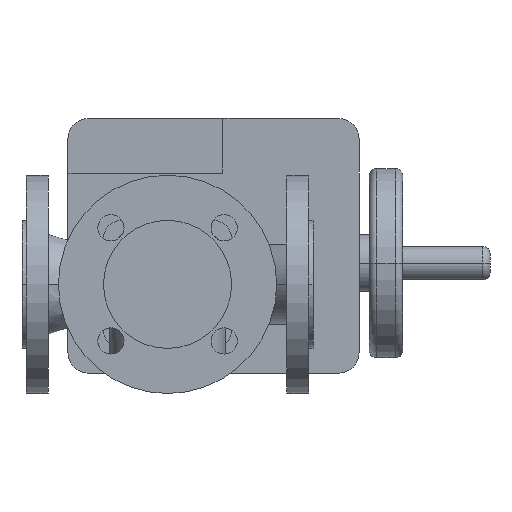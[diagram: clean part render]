
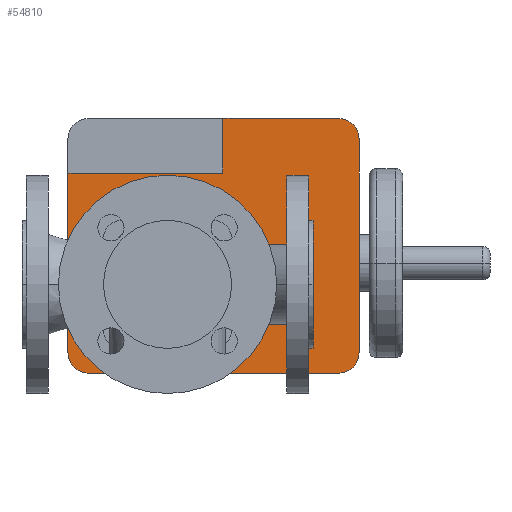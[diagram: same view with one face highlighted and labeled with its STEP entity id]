
A CAD part, front view. The second image highlights one B-rep face of the part: STEP entity #54810.
In plain terms, the highlighted planar face has unit normal (0, -1, 0).
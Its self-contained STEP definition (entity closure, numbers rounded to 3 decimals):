
#46860=CARTESIAN_POINT('',(31.6,415.5,-47.));
#46870=DIRECTION('',(0.,0.,1.));
#46880=VECTOR('',#46870,1.);
#46890=LINE('',#46860,#46880);
#46900=CARTESIAN_POINT('',(31.6,415.5,-47.));
#46910=VERTEX_POINT('',#46900);
#46920=CARTESIAN_POINT('',(31.6,415.5,76.5));
#46930=VERTEX_POINT('',#46920);
#46940=EDGE_CURVE('',#46910,#46930,#46890,.T.);
#50410=CARTESIAN_POINT('',(45.6,415.5,-47.));
#50420=DIRECTION('',(0.,1.,0.));
#50430=DIRECTION('',(0.,0.,-1.));
#50440=AXIS2_PLACEMENT_3D('',#50410,#50420,#50430);
#50450=CIRCLE('',#50440,14.);
#50460=CARTESIAN_POINT('',(45.6,415.5,-61.));
#50470=VERTEX_POINT('',#50460);
#50480=EDGE_CURVE('',#50470,#46910,#50450,.T.);
#50770=CARTESIAN_POINT('',(217.6,415.5,-61.));
#50780=DIRECTION('',(-1.,0.,0.));
#50790=VECTOR('',#50780,1.);
#50800=LINE('',#50770,#50790);
#50810=CARTESIAN_POINT('',(217.6,415.5,-61.));
#50820=VERTEX_POINT('',#50810);
#50830=EDGE_CURVE('',#50820,#50470,#50800,.T.);
#51220=CARTESIAN_POINT('',(47.058,415.5,49.002));
#51230=VERTEX_POINT('',#51220);
#51260=CARTESIAN_POINT('',(55.216,415.5,45.2));
#51270=DIRECTION('',(0.,1.,0.));
#51280=DIRECTION('',(-0.906,0.,0.422));
#51290=AXIS2_PLACEMENT_3D('',#51260,#51270,#51280);
#51300=CIRCLE('',#51290,9.);
#51310=CARTESIAN_POINT('',(55.216,415.5,54.2));
#51320=VERTEX_POINT('',#51310);
#51330=EDGE_CURVE('',#51230,#51320,#51300,.T.);
#51590=CARTESIAN_POINT('',(77.608,415.5,54.2));
#51600=DIRECTION('',(1.,0.,0.));
#51610=VECTOR('',#51600,1.);
#51620=LINE('',#51590,#51610);
#51630=CARTESIAN_POINT('',(144.784,415.5,54.2));
#51640=VERTEX_POINT('',#51630);
#51650=EDGE_CURVE('',#51320,#51640,#51620,.T.);
#51900=CARTESIAN_POINT('',(144.784,415.5,45.2));
#51910=DIRECTION('',(0.,1.,0.));
#51920=DIRECTION('',(0.,0.,1.));
#51930=AXIS2_PLACEMENT_3D('',#51900,#51910,#51920);
#51940=CIRCLE('',#51930,9.);
#51950=CARTESIAN_POINT('',(152.942,415.5,49.002));
#51960=VERTEX_POINT('',#51950);
#51970=EDGE_CURVE('',#51640,#51960,#51940,.T.);
#52230=CARTESIAN_POINT('',(47.8,415.5,0.)
);
#52240=DIRECTION('',(0.,1.,0.));
#52250=DIRECTION('',(0.906,0.,0.422));
#52260=AXIS2_PLACEMENT_3D('',#52230,#52240,#52250);
#52270=CIRCLE('',#52260,116.);
#52280=CARTESIAN_POINT('',(152.942,415.5,-49.002));
#52290=VERTEX_POINT('',#52280);
#52300=EDGE_CURVE('',#51960,#52290,#52270,.T.);
#52560=CARTESIAN_POINT('',(144.784,415.5,-45.2));
#52570=DIRECTION('',(0.,1.,0.));
#52580=DIRECTION('',(0.906,0.,-0.422));
#52590=AXIS2_PLACEMENT_3D('',#52560,#52570,#52580);
#52600=CIRCLE('',#52590,9.);
#52610=CARTESIAN_POINT('',(144.784,415.5,-54.2));
#52620=VERTEX_POINT('',#52610);
#52630=EDGE_CURVE('',#52290,#52620,#52600,.T.);
#52890=CARTESIAN_POINT('',(122.392,415.5,-54.2));
#52900=DIRECTION('',(-1.,0.,0.));
#52910=VECTOR('',#52900,1.);
#52920=LINE('',#52890,#52910);
#52930=CARTESIAN_POINT('',(55.216,415.5,-54.2));
#52940=VERTEX_POINT('',#52930);
#52950=EDGE_CURVE('',#52620,#52940,#52920,.T.);
#53200=CARTESIAN_POINT('',(55.216,415.5,-45.2));
#53210=DIRECTION('',(0.,1.,0.));
#53220=DIRECTION('',(0.,0.,-1.));
#53230=AXIS2_PLACEMENT_3D('',#53200,#53210,#53220);
#53240=CIRCLE('',#53230,9.);
#53250=CARTESIAN_POINT('',(47.058,415.5,-49.002));
#53260=VERTEX_POINT('',#53250);
#53270=EDGE_CURVE('',#52940,#53260,#53240,.T.);
#53530=CARTESIAN_POINT('',(152.2,415.5,0.));
#53540=DIRECTION('',(0.,1.,0.));
#53550=DIRECTION('',(-0.906,0.,-0.422));
#53560=AXIS2_PLACEMENT_3D('',#53530,#53540,#53550);
#53570=CIRCLE('',#53560,116.);
#53580=EDGE_CURVE('',#53260,#51230,#53570,.T.);
#54130=CARTESIAN_POINT('',(100.,415.5,0.));
#54140=DIRECTION('',(0.,1.,0.));
#54150=DIRECTION('',(0.,0.,1.));
#54160=AXIS2_PLACEMENT_3D('',#54130,#54140,#54150);
#54170=PLANE('',#54160);
#54180=ORIENTED_EDGE('',*,*,#53580,.T.);
#54190=ORIENTED_EDGE('',*,*,#53270,.T.);
#54200=ORIENTED_EDGE('',*,*,#52950,.T.);
#54210=ORIENTED_EDGE('',*,*,#52630,.T.);
#54220=ORIENTED_EDGE('',*,*,#52300,.T.);
#54230=ORIENTED_EDGE('',*,*,#51970,.T.);
#54240=ORIENTED_EDGE('',*,*,#51650,.T.);
#54250=ORIENTED_EDGE('',*,*,#51330,.T.);
#54260=EDGE_LOOP('',(#54250,#54240,#54230,#54220,#54210,#54200,#54190,
#54180));
#54270=FACE_BOUND('',#54260,.T.);
#54280=CARTESIAN_POINT('',(138.1,415.5,38.25));
#54290=DIRECTION('',(0.,0.,-1.));
#54300=VECTOR('',#54290,1.);
#54310=LINE('',#54280,#54300);
#54320=CARTESIAN_POINT('',(138.1,415.5,114.));
#54330=VERTEX_POINT('',#54320);
#54340=CARTESIAN_POINT('',(138.1,415.5,76.5));
#54350=VERTEX_POINT('',#54340);
#54360=EDGE_CURVE('',#54330,#54350,#54310,.T.);
#54370=ORIENTED_EDGE('',*,*,#54360,.T.);
#54380=CARTESIAN_POINT('',(45.6,415.5,114.));
#54390=DIRECTION('',(1.,0.,0.));
#54400=VECTOR('',#54390,1.);
#54410=LINE('',#54380,#54400);
#54420=CARTESIAN_POINT('',(217.6,415.5,114.));
#54430=VERTEX_POINT('',#54420);
#54440=EDGE_CURVE('',#54330,#54430,#54410,.T.);
#54450=ORIENTED_EDGE('',*,*,#54440,.F.);
#54460=CARTESIAN_POINT('',(217.6,415.5,100.));
#54470=DIRECTION('',(0.,1.,0.));
#54480=DIRECTION('',(0.,0.,1.));
#54490=AXIS2_PLACEMENT_3D('',#54460,#54470,#54480);
#54500=CIRCLE('',#54490,14.);
#54510=CARTESIAN_POINT('',(231.6,415.5,100.));
#54520=VERTEX_POINT('',#54510);
#54530=EDGE_CURVE('',#54430,#54520,#54500,.T.);
#54540=ORIENTED_EDGE('',*,*,#54530,.F.);
#54550=CARTESIAN_POINT('',(231.6,415.5,100.));
#54560=DIRECTION('',(0.,0.,-1.));
#54570=VECTOR('',#54560,1.);
#54580=LINE('',#54550,#54570);
#54590=CARTESIAN_POINT('',(231.6,415.5,-47.));
#54600=VERTEX_POINT('',#54590);
#54610=EDGE_CURVE('',#54520,#54600,#54580,.T.);
#54620=ORIENTED_EDGE('',*,*,#54610,.F.);
#54630=CARTESIAN_POINT('',(217.6,415.5,-47.));
#54640=DIRECTION('',(0.,1.,0.));
#54650=DIRECTION('',(1.,0.,0.));
#54660=AXIS2_PLACEMENT_3D('',#54630,#54640,#54650);
#54670=CIRCLE('',#54660,14.);
#54680=EDGE_CURVE('',#54600,#50820,#54670,.T.);
#54690=ORIENTED_EDGE('',*,*,#54680,.F.);
#54700=ORIENTED_EDGE('',*,*,#50830,.F.);
#54710=ORIENTED_EDGE('',*,*,#50480,.F.);
#54720=ORIENTED_EDGE('',*,*,#46940,.F.);
#54730=CARTESIAN_POINT('',(65.3,415.5,76.5));
#54740=DIRECTION('',(-1.,0.,0.));
#54750=VECTOR('',#54740,1.);
#54760=LINE('',#54730,#54750);
#54770=EDGE_CURVE('',#54350,#46930,#54760,.T.);
#54780=ORIENTED_EDGE('',*,*,#54770,.T.);
#54790=EDGE_LOOP('',(#54780,#54720,#54710,#54700,#54690,#54620,#54540,
#54450,#54370));
#54800=FACE_OUTER_BOUND('',#54790,.T.);
#54810=ADVANCED_FACE('',(#54270,#54800),#54170,.F.);
